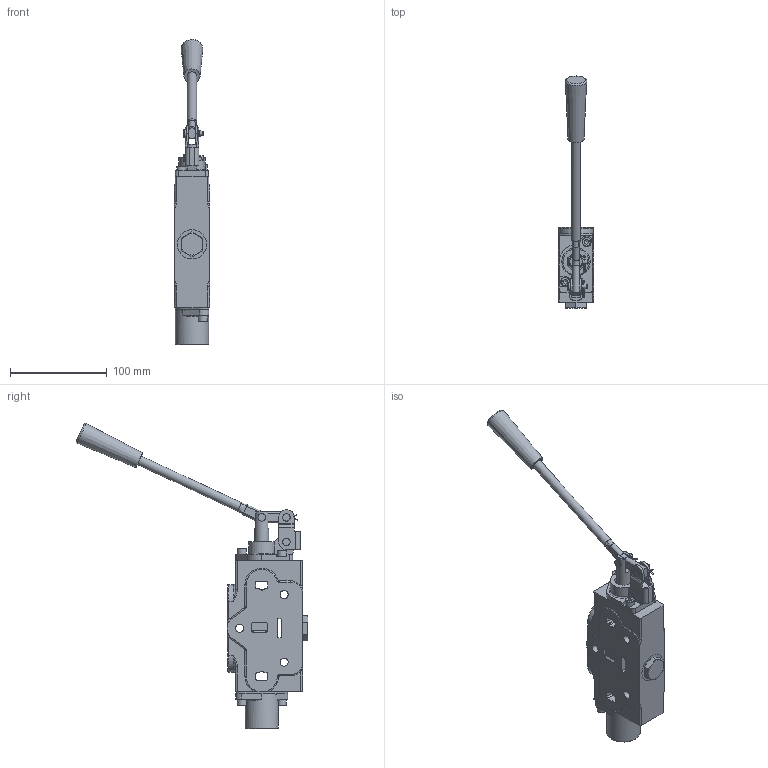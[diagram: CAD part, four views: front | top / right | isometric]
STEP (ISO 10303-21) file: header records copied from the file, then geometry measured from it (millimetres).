
FILE_DESCRIPTION(/* description */ (''),/* implementation_level */ '2;1');
FILE_NAME(/* name */ 'C:\Users\petersw\Desktop\SVWxxxx_(SVW1BA1).stp',/* time_stamp */ '2014-08-07T08:31:55-05:00',/* author */ ('PetersW'),/* organization */ ('PRINCE MANUFACTURING'),/* preprocessor_version */ 'ST-DEVELOPER v15.2',/* originating_system */ 'Autodesk Inventor 2014',/* authorisation */ '0 in^3');
FILE_SCHEMA (('AUTOMOTIVE_DESIGN { 1 0 10303 214 3 1 1 }'));
Length unit declared in the file: inch
Products named in the file (18): 625754001_Shell; 671400040; 670500047; 671700014; 220001512; 660180032; 170003017_; 671900011; 671700012; 660180031; 660180142; 670400012; 670400020; 671600049; 670500044; 671400033; 1700030xx_.25-20unc; SVW1xx1_ShellConstruction
Bounding box: 36.5 x 239.53 x 315.38 mm (x, y, z)
Volume: 377351.7 mm3; surface area: 96783.8 mm2
Topology: 19 solids, 21 shells, 773 faces, 1930 edges, 1213 vertices
Faces by surface type: plane 303, cylinder 268, bspline 94, torus 56, cone 48, sphere 4
Full cylindrical faces by diameter (mm): 2.381 x1, 2.388 x2, 4.661 x3, 4.801 x2, 4.826 x7, 4.978 x4, 6.096 x1, 6.35 x4, 6.731 x6, 7.797 x1, 7.798 x1, 7.925 x3, 8.331 x3, 9.525 x5, 9.931 x1, 12.763 x1, 14.275 x1, 15.875 x1, 15.878 x1, 16.751 x1, 16.929 x2, 17.069 x1, 17.475 x1, 17.501 x3, 17.78 x1, 19.05 x1, 21.666 x1, 21.844 x1, 22.009 x1, 22.212 x2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
Entity records: 22103 total; most frequent: CARTESIAN_POINT 6405, DIRECTION 3113, ORIENTED_EDGE 3088, EDGE_CURVE 1544, AXIS2_PLACEMENT_3D 1212, VERTEX_POINT 1038, EDGE_LOOP 852, LINE 689
